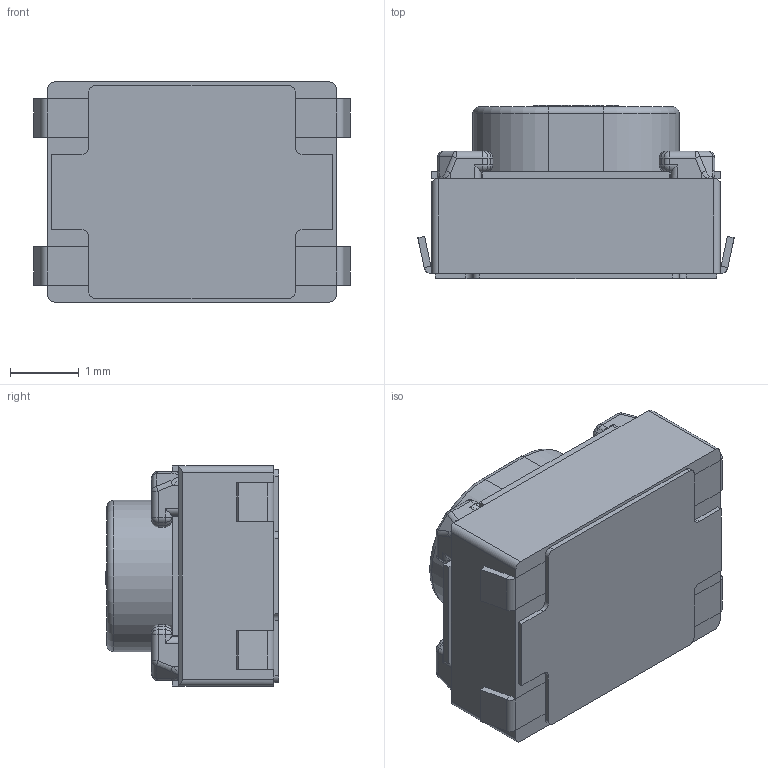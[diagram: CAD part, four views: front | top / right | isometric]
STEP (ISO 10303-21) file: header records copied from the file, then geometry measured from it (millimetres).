
FILE_DESCRIPTION (( 'STEP AP203' ), '1' );
FILE_NAME ('GT-TC048.STEP', '2023-09-07T06:59:38', ( '' ), ( '' ), 'SwSTEP 2.0', 'SolidWorks 2023', '' );
FILE_SCHEMA (( 'CONFIG_CONTROL_DESIGN' ));
Length unit declared in the file: millimetre
Products named in the file (1): GT-TC048
Bounding box: 4.6 x 2.52 x 3.2 mm (x, y, z)
Volume: 26.3 mm3; surface area: 66.4 mm2
Topology: 18 solids, 18 shells, 596 faces, 1522 edges, 932 vertices
Faces by surface type: plane 332, cylinder 132, bspline 90, sphere 40, torus 2
Entity records: 21223 total; most frequent: CARTESIAN_POINT 7509, ORIENTED_EDGE 2972, DIRECTION 2558, EDGE_CURVE 1486, LINE 1044, VECTOR 1044, VERTEX_POINT 924, AXIS2_PLACEMENT_3D 757
